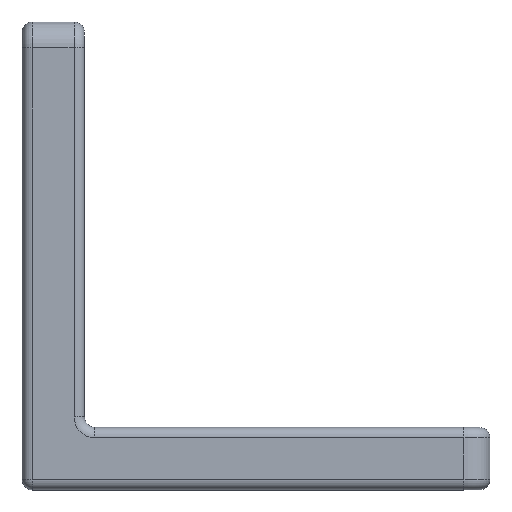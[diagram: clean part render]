
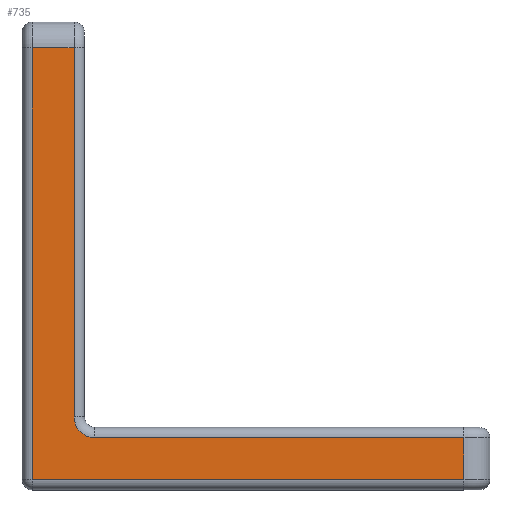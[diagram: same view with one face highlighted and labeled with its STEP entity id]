
A CAD part, top view. The second image highlights one B-rep face of the part: STEP entity #735.
In plain terms, the highlighted planar face has unit normal (0, 0, 1).
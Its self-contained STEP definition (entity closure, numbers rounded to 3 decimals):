
#21 = DIRECTION ( 'NONE',  ( 1., 0., 0. ) ) ;
#93 = CARTESIAN_POINT ( 'NONE',  ( 85., 2., 15. ) ) ;
#98 = LINE ( 'NONE', #425, #1282 ) ;
#100 = LINE ( 'NONE', #342, #1284 ) ;
#197 = CIRCLE ( 'NONE', #1385, 4. ) ;
#216 = LINE ( 'NONE', #1474, #1407 ) ;
#259 = DIRECTION ( 'NONE',  ( 0., 0., 1. ) ) ;
#279 = CARTESIAN_POINT ( 'NONE',  ( 10., 14., 15. ) ) ;
#285 = DIRECTION ( 'NONE',  ( 0., 1., 0. ) ) ;
#342 = CARTESIAN_POINT ( 'NONE',  ( 85., 12., 15. ) ) ;
#347 = VERTEX_POINT ( 'NONE', #1068 ) ;
#355 = VECTOR ( 'NONE', #285, 1000. ) ;
#406 = VECTOR ( 'NONE', #581, 1000. ) ;
#408 = CARTESIAN_POINT ( 'NONE',  ( 14., 10., 15. ) ) ;
#425 = CARTESIAN_POINT ( 'NONE',  ( 85., 2., 15. ) ) ;
#435 = CARTESIAN_POINT ( 'NONE',  ( 0., 85., 15. ) ) ;
#568 = ORIENTED_EDGE ( 'NONE', *, *, #1580, .F. ) ;
#581 = DIRECTION ( 'NONE',  ( -1., 0., 0. ) ) ;
#587 = CARTESIAN_POINT ( 'NONE',  ( 10., 85., 15. ) ) ;
#645 = VERTEX_POINT ( 'NONE', #1627 ) ;
#651 = CARTESIAN_POINT ( 'NONE',  ( 85., 10., 15. ) ) ;
#696 = DIRECTION ( 'NONE',  ( -1., 0., 0. ) ) ;
#712 = VECTOR ( 'NONE', #1053, 1000. ) ;
#731 = DIRECTION ( 'NONE',  ( 1., 0., 0. ) ) ;
#735 = ADVANCED_FACE ( 'NONE', ( #1746 ), #1694, .T. ) ;
#777 = ORIENTED_EDGE ( 'NONE', *, *, #1052, .T. ) ;
#1003 = ORIENTED_EDGE ( 'NONE', *, *, #1740, .T. ) ;
#1052 = EDGE_CURVE ( 'NONE', #1253, #1103, #100, .T. ) ;
#1053 = DIRECTION ( 'NONE',  ( 0., -1., 0. ) ) ;
#1068 = CARTESIAN_POINT ( 'NONE',  ( 2., 85., 15. ) ) ;
#1103 = VERTEX_POINT ( 'NONE', #651 ) ;
#1122 = DIRECTION ( 'NONE',  ( 0., 0., 1. ) ) ;
#1136 = LINE ( 'NONE', #1639, #712 ) ;
#1143 = ORIENTED_EDGE ( 'NONE', *, *, #1683, .T. ) ;
#1186 = LINE ( 'NONE', #587, #355 ) ;
#1188 = CARTESIAN_POINT ( 'NONE',  ( 14., 14., 15. ) ) ;
#1195 = EDGE_LOOP ( 'NONE', ( #568, #1630, #1003, #1346, #1143, #777, #1579 ) ) ;
#1223 = AXIS2_PLACEMENT_3D ( 'NONE', #1275, #1122, #21 ) ;
#1253 = VERTEX_POINT ( 'NONE', #93 ) ;
#1255 = EDGE_CURVE ( 'NONE', #1103, #1312, #216, .T. ) ;
#1275 = CARTESIAN_POINT ( 'NONE',  ( 0., 0., 15. ) ) ;
#1282 = VECTOR ( 'NONE', #731, 1000. ) ;
#1284 = VECTOR ( 'NONE', #1854, 1000. ) ;
#1312 = VERTEX_POINT ( 'NONE', #408 ) ;
#1346 = ORIENTED_EDGE ( 'NONE', *, *, #1810, .T. ) ;
#1347 = DIRECTION ( 'NONE',  ( 1., 0., 0. ) ) ;
#1385 = AXIS2_PLACEMENT_3D ( 'NONE', #1188, #259, #1347 ) ;
#1407 = VECTOR ( 'NONE', #696, 1000. ) ;
#1474 = CARTESIAN_POINT ( 'NONE',  ( 12., 10., 15. ) ) ;
#1506 = CARTESIAN_POINT ( 'NONE',  ( 2., 2., 15. ) ) ;
#1579 = ORIENTED_EDGE ( 'NONE', *, *, #1255, .T. ) ;
#1580 = EDGE_CURVE ( 'NONE', #1722, #1312, #197, .T. ) ;
#1627 = CARTESIAN_POINT ( 'NONE',  ( 10., 85., 15. ) ) ;
#1630 = ORIENTED_EDGE ( 'NONE', *, *, #1784, .T. ) ;
#1639 = CARTESIAN_POINT ( 'NONE',  ( 2., 0., 15. ) ) ;
#1670 = LINE ( 'NONE', #435, #406 ) ;
#1683 = EDGE_CURVE ( 'NONE', #1836, #1253, #98, .T. ) ;
#1694 = PLANE ( 'NONE',  #1223 ) ;
#1722 = VERTEX_POINT ( 'NONE', #279 ) ;
#1740 = EDGE_CURVE ( 'NONE', #645, #347, #1670, .T. ) ;
#1746 = FACE_OUTER_BOUND ( 'NONE', #1195, .T. ) ;
#1784 = EDGE_CURVE ( 'NONE', #1722, #645, #1186, .T. ) ;
#1810 = EDGE_CURVE ( 'NONE', #347, #1836, #1136, .T. ) ;
#1836 = VERTEX_POINT ( 'NONE', #1506 ) ;
#1854 = DIRECTION ( 'NONE',  ( 0., 1., 0. ) ) ;
